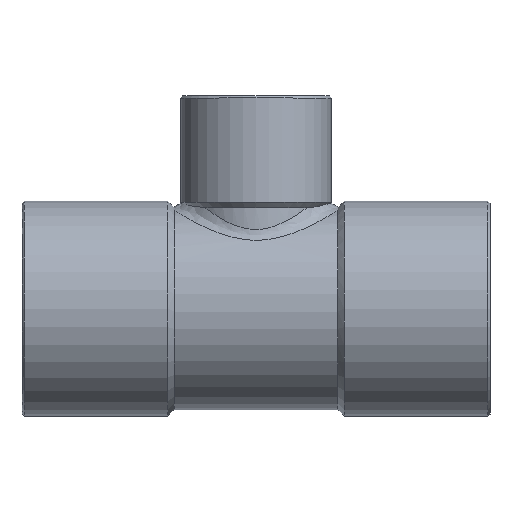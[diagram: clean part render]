
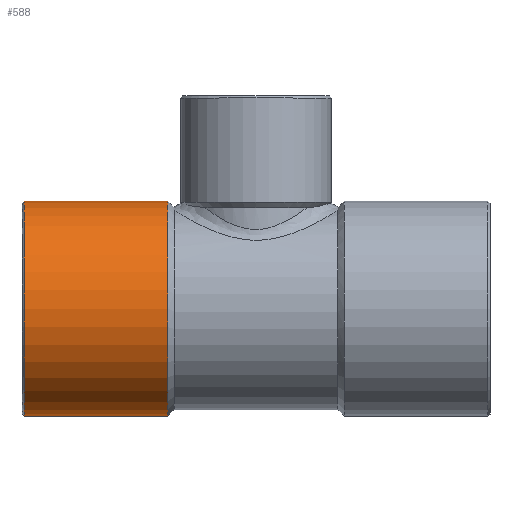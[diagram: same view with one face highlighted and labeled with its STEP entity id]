
A CAD part, top view. The second image highlights one B-rep face of the part: STEP entity #588.
In plain terms, the highlighted cylindrical face has radius 10.1 mm (diameter 20.2 mm), a partial arc.
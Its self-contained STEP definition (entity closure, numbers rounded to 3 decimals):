
#49=CARTESIAN_POINT('',(-8.3,10.1,0.0));
#50=VERTEX_POINT('',#49);
#59=CARTESIAN_POINT('',(-8.3,-10.1,0.));
#60=VERTEX_POINT('',#59);
#61=CARTESIAN_POINT('',(-8.3,0.0,0.0));
#62=DIRECTION('',(1.0,0.0,0.0));
#63=DIRECTION('',(0.0,1.0,0.0));
#64=AXIS2_PLACEMENT_3D('',#61,#62,#63);
#65=CIRCLE('',#64,10.1);
#66=EDGE_CURVE('',#50,#60,#65,.T.);
#557=CARTESIAN_POINT('',(-15.15,0.0,0.0));
#558=DIRECTION('',(1.0,0.0,0.0));
#559=DIRECTION('',(0.0,1.0,0.0));
#560=AXIS2_PLACEMENT_3D('',#557,#558,#559);
#561=CYLINDRICAL_SURFACE('',#560,10.1);
#562=CARTESIAN_POINT('',(-21.8,10.1,0.));
#563=VERTEX_POINT('',#562);
#564=CARTESIAN_POINT('',(-21.8,10.1,0.));
#565=DIRECTION('',(1.0,0.0,0.0));
#566=VECTOR('',#565,13.5);
#567=LINE('',#564,#566);
#568=EDGE_CURVE('',#563,#50,#567,.T.);
#569=ORIENTED_EDGE('',*,*,#568,.F.);
#570=CARTESIAN_POINT('',(-21.8,-10.1,0.));
#571=VERTEX_POINT('',#570);
#572=CARTESIAN_POINT('',(-21.8,0.0,0.0));
#573=DIRECTION('',(-1.0,0.0,0.0));
#574=DIRECTION('',(0.0,-1.0,0.0));
#575=AXIS2_PLACEMENT_3D('',#572,#573,#574);
#576=CIRCLE('',#575,10.1);
#577=EDGE_CURVE('',#571,#563,#576,.T.);
#578=ORIENTED_EDGE('',*,*,#577,.F.);
#579=CARTESIAN_POINT('',(-8.3,-10.1,0.));
#580=DIRECTION('',(-1.0,0.0,0.0));
#581=VECTOR('',#580,13.5);
#582=LINE('',#579,#581);
#583=EDGE_CURVE('',#60,#571,#582,.T.);
#584=ORIENTED_EDGE('',*,*,#583,.F.);
#585=ORIENTED_EDGE('',*,*,#66,.F.);
#586=EDGE_LOOP('',(#569,#578,#584,#585));
#587=FACE_OUTER_BOUND('',#586,.T.);
#588=ADVANCED_FACE('',(#587),#561,.T.);
